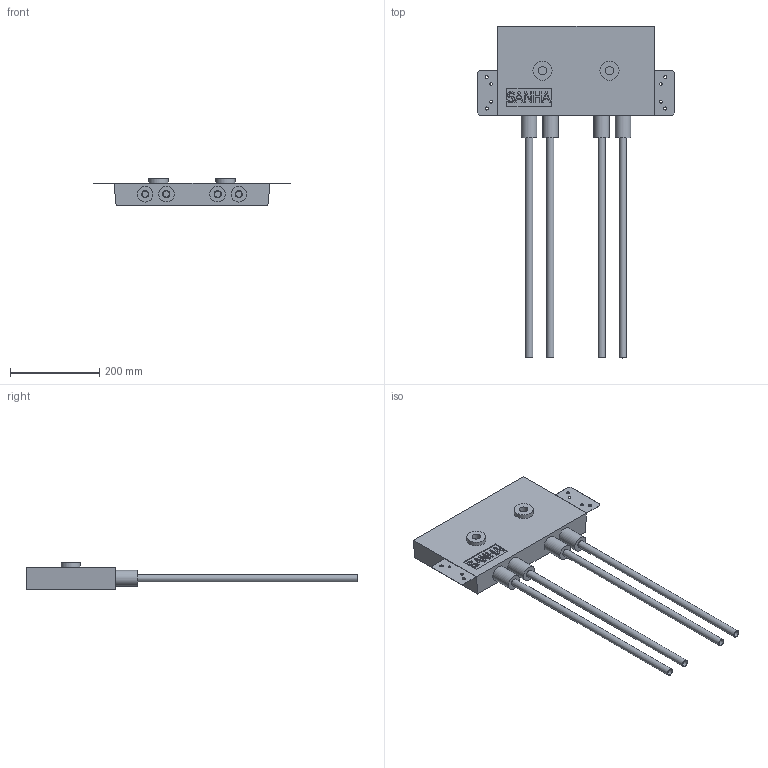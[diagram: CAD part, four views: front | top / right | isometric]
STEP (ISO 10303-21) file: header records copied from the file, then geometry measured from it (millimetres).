
FILE_DESCRIPTION(/* description */ (''),/* implementation_level */ '2;1');
FILE_NAME(/* name */ '\\LG50011\SANHA_Legnica\Engineering\Public\PROJEKTY\SANHA-BOX_Support_BiR\002-Rysunki_Boxów\25-BWDUZ-T\Zespół-325BWDUZT16.stp',/* time_stamp */ '2018-11-05T14:30:19+01:00',/* author */ ('gomulka'),/* organization */ (''),/* preprocessor_version */ 'ST-DEVELOPER v16.13',/* originating_system */ 'Autodesk Inventor 2018',/* authorisation */ '');
FILE_SCHEMA (('AUTOMOTIVE_DESIGN { 1 0 10303 214 3 1 1 }'));
Length unit declared in the file: millimetre
Products named in the file (4): Zespół-325BWDUZT16; KSBMPDW2; 325BWDUZT16; Rura_16x2
Assembly tree (7 placements, depth 2):
  Zespół-325BWDUZT16
    KSBMPDW2  x2
    325BWDUZT16
    Rura_16x2  x4
Bounding box: 440.74 x 744.19 x 60 mm (x, y, z)
Volume: 3706760 mm3; surface area: 439843.2 mm2
Topology: 7 solids, 7 shells, 146 faces, 336 edges, 224 vertices
Faces by surface type: plane 102, cylinder 28, bspline 16
Full cylindrical faces by diameter (mm): 6.1 x4, 7 x4, 14 x4, 16 x8, 18.631 x2, 35 x4, 43 x2
Entity records: 3681 total; most frequent: CARTESIAN_POINT 803, ORIENTED_EDGE 540, DIRECTION 508, EDGE_CURVE 270, LINE 202, VECTOR 202, VERTEX_POINT 192, EDGE_LOOP 170
